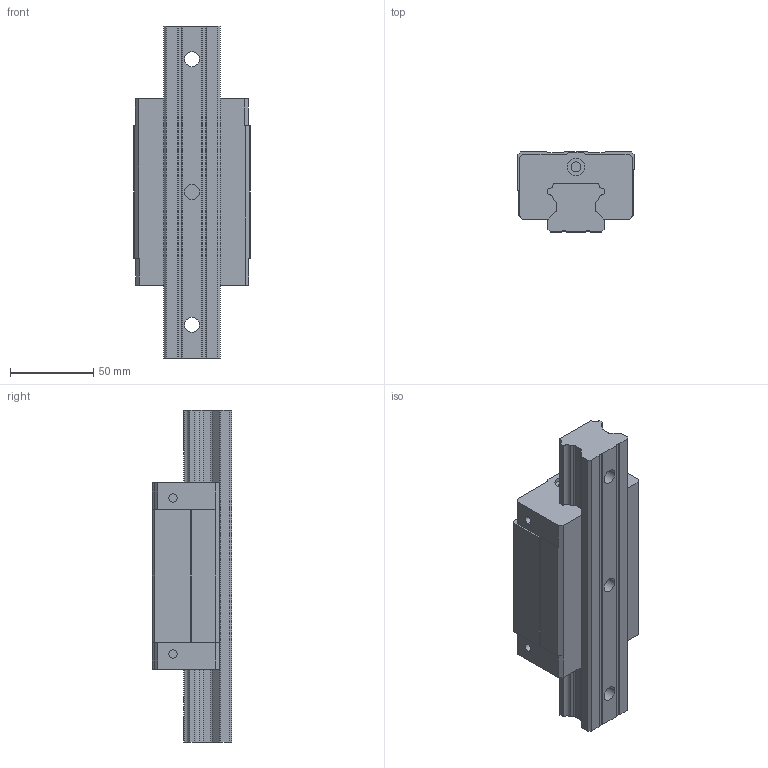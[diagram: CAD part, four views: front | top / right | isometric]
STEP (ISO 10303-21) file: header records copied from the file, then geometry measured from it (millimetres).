
FILE_DESCRIPTION((''),'2;1');
FILE_NAME('HGL35CA_ASM','2008-07-11T',('immo'),(''),'PRO/ENGINEER BY PARAMETRIC TECHNOLOGY CORPORATION, 2004360','PRO/ENGINEER BY PARAMETRIC TECHNOLOGY CORPORATION, 2004360','');
FILE_SCHEMA(('CONFIG_CONTROL_DESIGN'));
Length unit declared in the file: millimetre
Products named in the file (6): HGH35_1; HGR35_1; HGH35_ASM_2_ASM_ASM_ASM; HGH35C_ASM_ASM_ASM; HGL35C_ASM_ASM; HGL35CA_ASM
Assembly tree (5 placements, depth 5):
  HGL35CA_ASM
    HGL35C_ASM_ASM
      HGH35C_ASM_ASM_ASM
        HGH35_ASM_2_ASM_ASM_ASM
          HGH35_1
          HGR35_1
Bounding box: 70 x 48 x 200 mm (x, y, z)
Volume: 399402.9 mm3; surface area: 66712.7 mm2
Topology: 2 solids, 2 shells, 171 faces, 460 edges, 312 vertices
Faces by surface type: plane 109, cylinder 62
Entity records: 5582 total; most frequent: CARTESIAN_POINT 958, DIRECTION 956, ORIENTED_EDGE 920, EDGE_CURVE 460, VECTOR 336, LINE 336, VERTEX_POINT 312, AXIS2_PLACEMENT_3D 310
